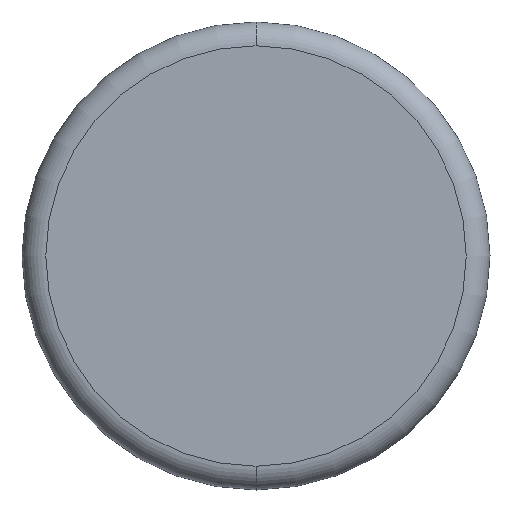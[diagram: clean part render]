
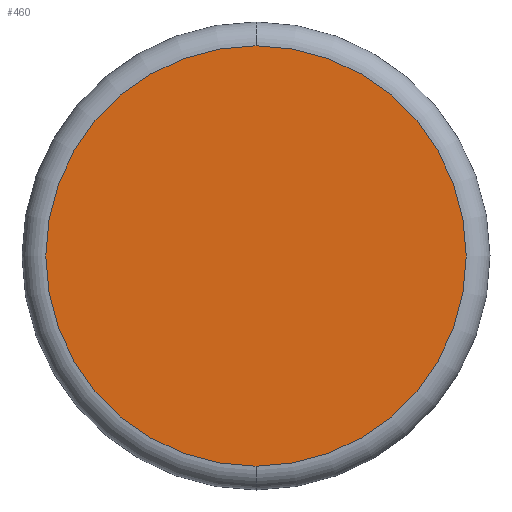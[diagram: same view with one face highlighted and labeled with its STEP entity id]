
A CAD part, left-side view. The second image highlights one B-rep face of the part: STEP entity #460.
In plain terms, the highlighted planar face has unit normal (-1, 0, 0).
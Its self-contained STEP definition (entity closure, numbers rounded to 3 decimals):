
#49=CARTESIAN_POINT('',(-20.4,0.,-30.));
#50=VERTEX_POINT('',#49);
#60=CARTESIAN_POINT('',(-20.4,30.0,0.0));
#61=VERTEX_POINT('',#60);
#62=CARTESIAN_POINT('',(-20.4,0.,0.0));
#63=DIRECTION('',(1.0,0.0,0.0));
#64=DIRECTION('',(0.0,1.0,0.0));
#65=AXIS2_PLACEMENT_3D('',#62,#63,#64);
#66=CIRCLE('',#65,30.);
#67=EDGE_CURVE('',#50,#61,#66,.T.);
#69=CARTESIAN_POINT('',(-20.4,0.,30.));
#70=VERTEX_POINT('',#69);
#71=CARTESIAN_POINT('',(-20.4,0.,0.0));
#72=DIRECTION('',(1.0,0.0,0.0));
#73=DIRECTION('',(0.0,1.0,0.0));
#74=AXIS2_PLACEMENT_3D('',#71,#72,#73);
#75=CIRCLE('',#74,30.);
#76=EDGE_CURVE('',#61,#70,#75,.T.);
#444=CARTESIAN_POINT('',(-20.4,15.,0.0));
#445=DIRECTION('',(-1.0,0.0,0.0));
#446=DIRECTION('',(0.0,0.0,1.0));
#447=AXIS2_PLACEMENT_3D('',#444,#445,#446);
#448=PLANE('',#447);
#449=ORIENTED_EDGE('',*,*,#76,.F.);
#450=ORIENTED_EDGE('',*,*,#67,.F.);
#451=CARTESIAN_POINT('',(-20.4,0.,0.0));
#452=DIRECTION('',(1.0,0.0,0.0));
#453=DIRECTION('',(0.0,1.0,0.0));
#454=AXIS2_PLACEMENT_3D('',#451,#452,#453);
#455=CIRCLE('',#454,30.);
#456=EDGE_CURVE('',#70,#50,#455,.T.);
#457=ORIENTED_EDGE('',*,*,#456,.F.);
#458=EDGE_LOOP('',(#449,#450,#457));
#459=FACE_OUTER_BOUND('',#458,.T.);
#460=ADVANCED_FACE('',(#459),#448,.T.);
